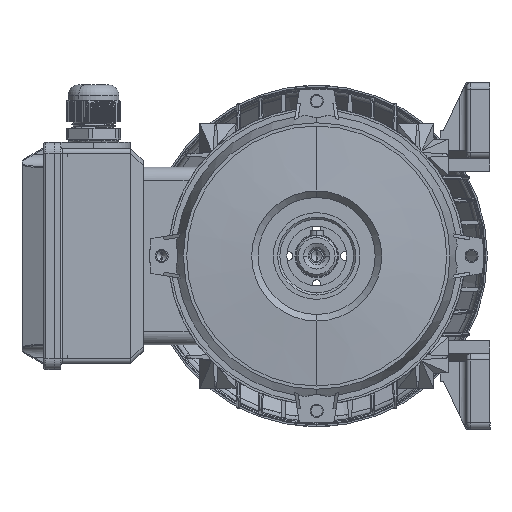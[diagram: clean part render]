
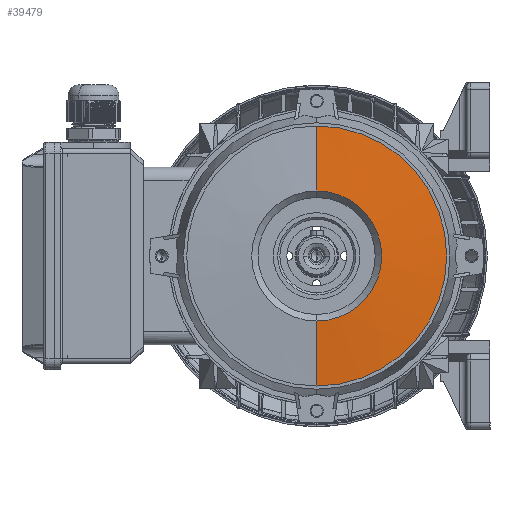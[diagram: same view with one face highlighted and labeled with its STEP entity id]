
A CAD part, left-side view. The second image highlights one B-rep face of the part: STEP entity #39479.
In plain terms, the highlighted conical face has half-angle 85.5 degrees and reference radius 60 mm.
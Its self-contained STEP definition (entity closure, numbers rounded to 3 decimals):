
#11945 = CARTESIAN_POINT ( 'NONE',  ( -10., 0., 30. ) ) ;
#12049 = CARTESIAN_POINT ( 'NONE',  ( -7.639, 0., -60. ) ) ;
#12060 = CARTESIAN_POINT ( 'NONE',  ( -7.639, 0., 60. ) ) ;
#12131 = CARTESIAN_POINT ( 'NONE',  ( -10., 0., -30. ) ) ;
#12137 = DIRECTION ( 'NONE',  ( 0.078, 0., 0.997 ) ) ;
#12139 = VECTOR ( 'NONE', #12137, 1000. ) ;
#12155 = LINE ( 'NONE', #12060, #12139 ) ;
#12321 = CARTESIAN_POINT ( 'NONE',  ( -7.639, 0., 60. ) ) ;
#12503 = CARTESIAN_POINT ( 'NONE',  ( -7.639, 0., -60. ) ) ;
#12504 = LINE ( 'NONE', #12503, #12570 ) ;
#12569 = DIRECTION ( 'NONE',  ( 0.078, 0., -0.997 ) ) ;
#12570 = VECTOR ( 'NONE', #12569, 1000. ) ;
#12605 = AXIS2_PLACEMENT_3D ( 'NONE', #12609, #12613, #12659 ) ;
#12609 = CARTESIAN_POINT ( 'NONE',  ( -10., 0., 0. ) ) ;
#12613 = DIRECTION ( 'NONE',  ( -1., 0., 0. ) ) ;
#12659 = DIRECTION ( 'NONE',  ( 0., 0., 1. ) ) ;
#12682 = CIRCLE ( 'NONE', #12605, 30. ) ;
#20703 = AXIS2_PLACEMENT_3D ( 'NONE', #20807, #20806, #20805 ) ;
#20706 = FACE_OUTER_BOUND ( 'NONE', #39379, .T. ) ;
#20759 = CIRCLE ( 'NONE', #20838, 60. ) ;
#20803 = CONICAL_SURFACE ( 'NONE', #20703, 60., 1.492 ) ;
#20805 = DIRECTION ( 'NONE',  ( 0., 0., -1. ) ) ;
#20806 = DIRECTION ( 'NONE',  ( 1., 0., 0. ) ) ;
#20807 = CARTESIAN_POINT ( 'NONE',  ( -7.639, 0., 0. ) ) ;
#20835 = DIRECTION ( 'NONE',  ( 0., 0., 1. ) ) ;
#20836 = DIRECTION ( 'NONE',  ( -1., 0., 0. ) ) ;
#20838 = AXIS2_PLACEMENT_3D ( 'NONE', #20848, #20836, #20835 ) ;
#20848 = CARTESIAN_POINT ( 'NONE',  ( -7.639, 0., 0. ) ) ;
#36504 = VERTEX_POINT ( 'NONE', #12049 ) ;
#36505 = VERTEX_POINT ( 'NONE', #11945 ) ;
#36546 = EDGE_CURVE ( 'NONE', #36505, #36593, #12155, .T. ) ;
#36549 = VERTEX_POINT ( 'NONE', #12131 ) ;
#36593 = VERTEX_POINT ( 'NONE', #12321 ) ;
#36682 = EDGE_CURVE ( 'NONE', #36549, #36504, #12504, .T. ) ;
#36725 = EDGE_CURVE ( 'NONE', #36549, #36505, #12682, .T. ) ;
#39379 = EDGE_LOOP ( 'NONE', ( #39411, #39396, #39418, #39500 ) ) ;
#39396 = ORIENTED_EDGE ( 'NONE', *, *, #36725, .F. ) ;
#39411 = ORIENTED_EDGE ( 'NONE', *, *, #36546, .F. ) ;
#39418 = ORIENTED_EDGE ( 'NONE', *, *, #36682, .T. ) ;
#39479 = ADVANCED_FACE ( 'NONE', ( #20706 ), #20803, .T. ) ;
#39491 = EDGE_CURVE ( 'NONE', #36504, #36593, #20759, .T. ) ;
#39500 = ORIENTED_EDGE ( 'NONE', *, *, #39491, .T. ) ;
